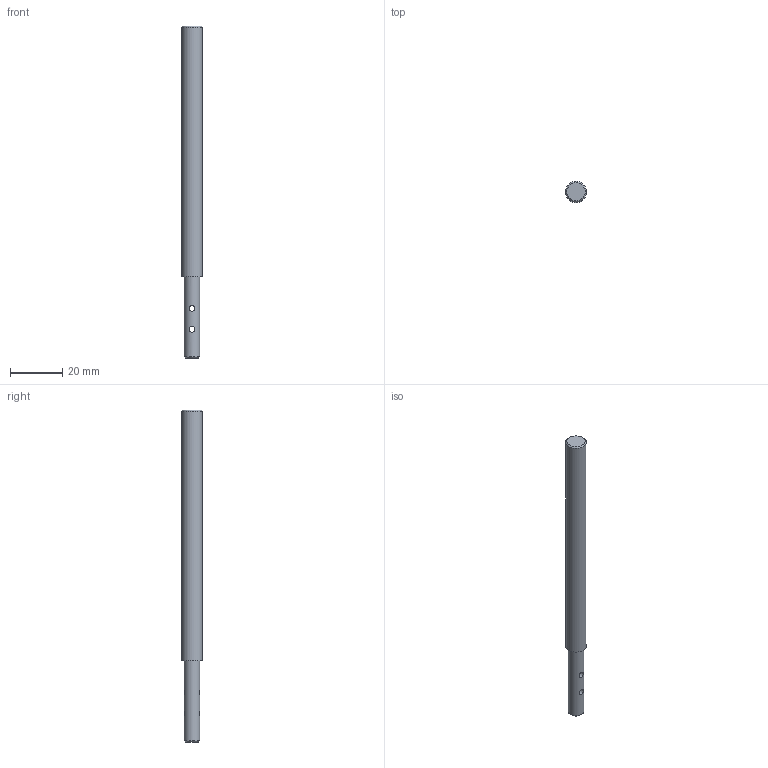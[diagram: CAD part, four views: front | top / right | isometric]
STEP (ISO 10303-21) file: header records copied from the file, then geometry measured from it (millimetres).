
FILE_DESCRIPTION (( 'STEP AP214' ), '1' );
FILE_NAME ('N30159.step', '2024-12-03T16:27:11', ( '' ), ( '' ), 'SwSTEP 2.0', 'SolidWorks 2023', '' );
FILE_SCHEMA (( 'AUTOMOTIVE_DESIGN' ));
Length unit declared in the file: millimetre
Products named in the file (1): N30159
Bounding box: 8 x 8 x 127 mm (x, y, z)
Volume: 5649.9 mm3; surface area: 3149.6 mm2
Topology: 1 solids, 1 shells, 9 faces, 18 edges, 12 vertices
Faces by surface type: cylinder 4, plane 3, cone 2
Full cylindrical faces by diameter (mm): 2.25 x2, 6 x1, 8 x1
Entity records: 361 total; most frequent: CARTESIAN_POINT 178, DIRECTION 32, EDGE_LOOP 20, ORIENTED_EDGE 20, AXIS2_PLACEMENT_3D 16, FACE_OUTER_BOUND 13, VERTEX_POINT 10, EDGE_CURVE 10
